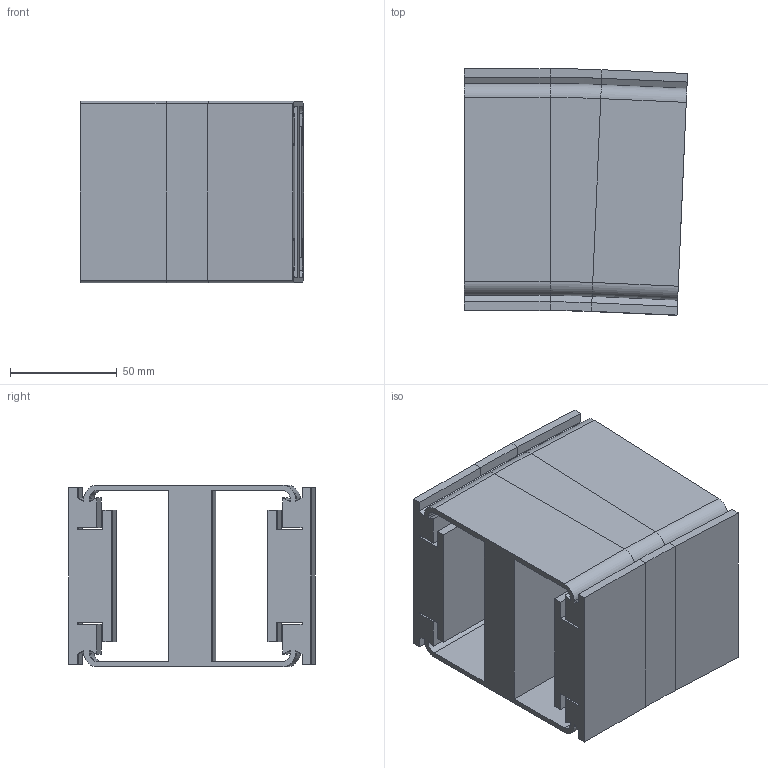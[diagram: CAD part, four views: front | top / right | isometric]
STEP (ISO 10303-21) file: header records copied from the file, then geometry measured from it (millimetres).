
FILE_DESCRIPTION (( 'STEP AP214' ), '1' );
FILE_NAME ('VC.85 Verticale bochtsectie.R500 2,5.STEP', '2017-02-08T08:13:05', ( '' ), ( '' ), 'SwSTEP 2.0', 'SolidWorks 2016', '' );
FILE_SCHEMA (( 'AUTOMOTIVE_DESIGN' ));
Length unit declared in the file: millimetre
Products named in the file (1): VC.85 Verticale bochtsectie.R500 2,5
Bounding box: 104.24 x 115.17 x 85 mm (x, y, z)
Volume: 485373.1 mm3; surface area: 120382.7 mm2
Topology: 1 solids, 1 shells, 206 faces, 476 edges, 272 vertices
Faces by surface type: plane 144, cylinder 46, cone 8, torus 8
Entity records: 5674 total; most frequent: DIRECTION 990, CARTESIAN_POINT 955, ORIENTED_EDGE 952, EDGE_CURVE 476, VECTOR 376, LINE 376, AXIS2_PLACEMENT_3D 307, VERTEX_POINT 272
